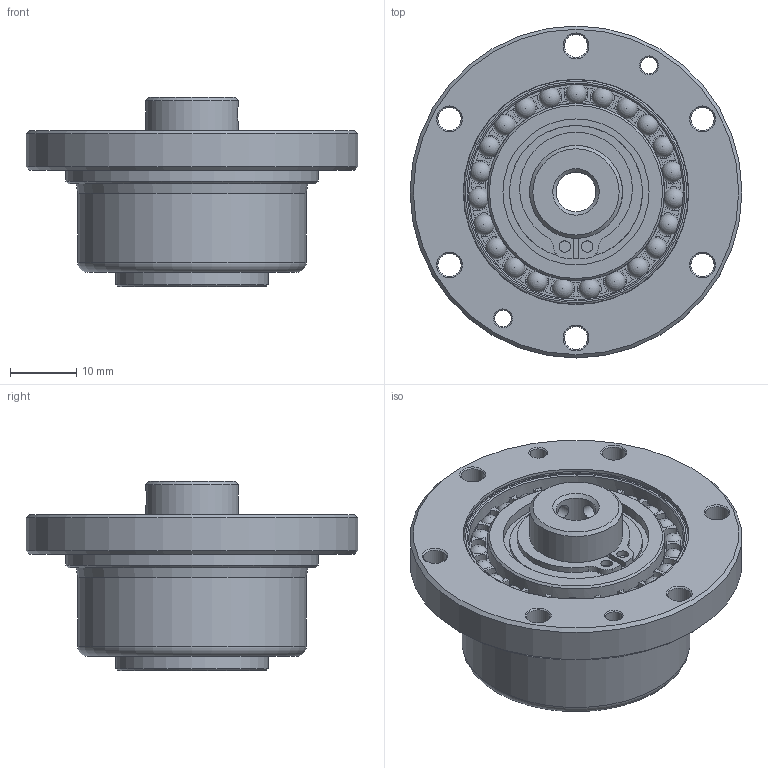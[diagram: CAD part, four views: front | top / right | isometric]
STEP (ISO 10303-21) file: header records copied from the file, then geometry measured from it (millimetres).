
FILE_DESCRIPTION(/* description */ (''),/* implementation_level */ '2;1');
FILE_NAME(/* name */ 'S:\TB00F\研發課二組\機密級\1.\X2\8A2D8A08\X0\\01-DT\DT圖面-y\2.組合圖\\X2\6A21578B\X0\\WUI-S-XX-CO\WUI-S-14-CO模型\WUI-S-14.stp',/* time_stamp */ '2018-11-23T14:25:11+08:00',/* author */ ('yin210'),/* organization */ (''),/* preprocessor_version */ 'ST-DEVELOPER v15.2',/* originating_system */ 'Autodesk Inventor 2014',/* authorisation */ '');
FILE_SCHEMA (('AUTOMOTIVE_DESIGN { 1 0 10303 214 3 1 1 }'));
Length unit declared in the file: centimetre
Products named in the file (1): WUI-S-14
Bounding box: 50 x 50 x 28.5 mm (x, y, z)
Volume: 16612 mm3; surface area: 11803.2 mm2
Topology: 1 solids, 1 shells, 329 faces, 825 edges, 509 vertices
Faces by surface type: cylinder 136, plane 68, cone 51, torus 49, sphere 23, bspline 2
Full cylindrical faces by diameter (mm): 1.7 x2, 2.459 x6, 3 x2, 3.5 x6, 4.5 x6, 6 x1, 11 x1, 13.4 x1, 14 x1, 20 x1, 22 x1, 23 x1, 25 x1, 26.67 x1, 32.37 x1, 33.89 x1, 33.94 x1, 34.39 x1, 38 x1, 50 x1
Entity records: 9477 total; most frequent: CARTESIAN_POINT 1831, DIRECTION 1790, ORIENTED_EDGE 1352, AXIS2_PLACEMENT_3D 838, EDGE_CURVE 630, CIRCLE 510, EDGE_LOOP 498, VERTEX_POINT 430
